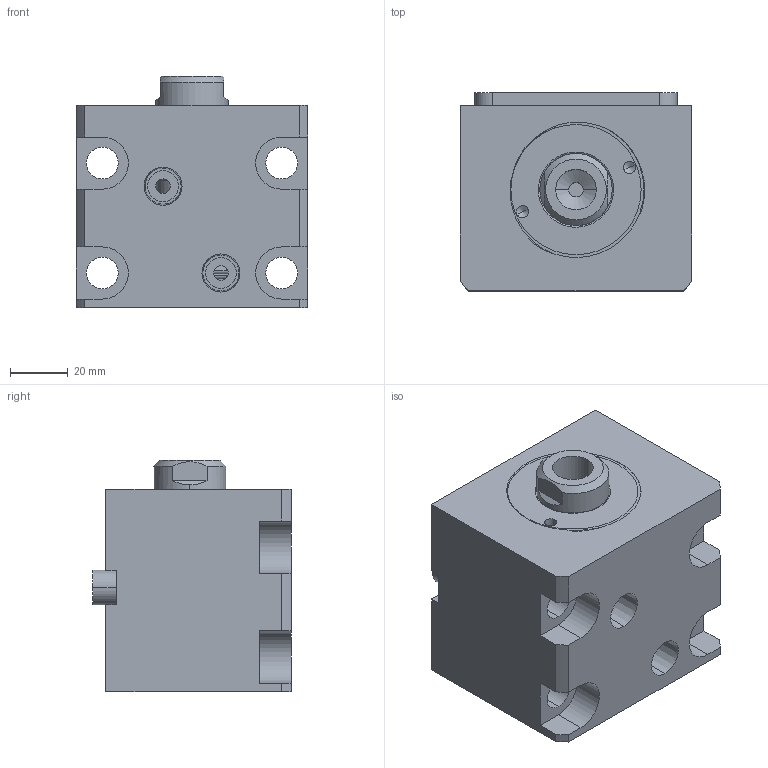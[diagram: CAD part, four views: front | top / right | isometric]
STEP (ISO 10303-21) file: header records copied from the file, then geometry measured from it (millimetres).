
FILE_DESCRIPTION (( 'STEP AP214' ), '1' );
FILE_NAME ('chtb-la40x15n_asm.STEP', '2018-05-31T01:48:09', ( 'Windows' ), ( 'Microsoft' ), 'SwSTEP 2.0', 'SolidWorks 2015', '' );
FILE_SCHEMA (( 'AUTOMOTIVE_DESIGN' ));
Length unit declared in the file: millimetre
Products named in the file (5): CHTB-LA40PJ; CHTB-SD40QG; CHTB-SD40X15NHSG; CHTB-LA40X15NBT; chtb-la40x15n_asm
Assembly tree (4 placements, depth 2):
  chtb-la40x15n_asm
    CHTB-LA40X15NBT
    CHTB-SD40X15NHSG
    CHTB-SD40QG
    CHTB-LA40PJ
Bounding box: 80 x 68.5 x 80 mm (x, y, z)
Volume: 309431 mm3; surface area: 71904.8 mm2
Topology: 4 solids, 4 shells, 160 faces, 430 edges, 286 vertices
Faces by surface type: cylinder 73, plane 48, bspline 14, cone 13, torus 12
Entity records: 10258 total; most frequent: CARTESIAN_POINT 6106, ORIENTED_EDGE 848, DIRECTION 787, EDGE_CURVE 424, AXIS2_PLACEMENT_3D 314, VERTEX_POINT 286, EDGE_LOOP 188, CIRCLE 161
